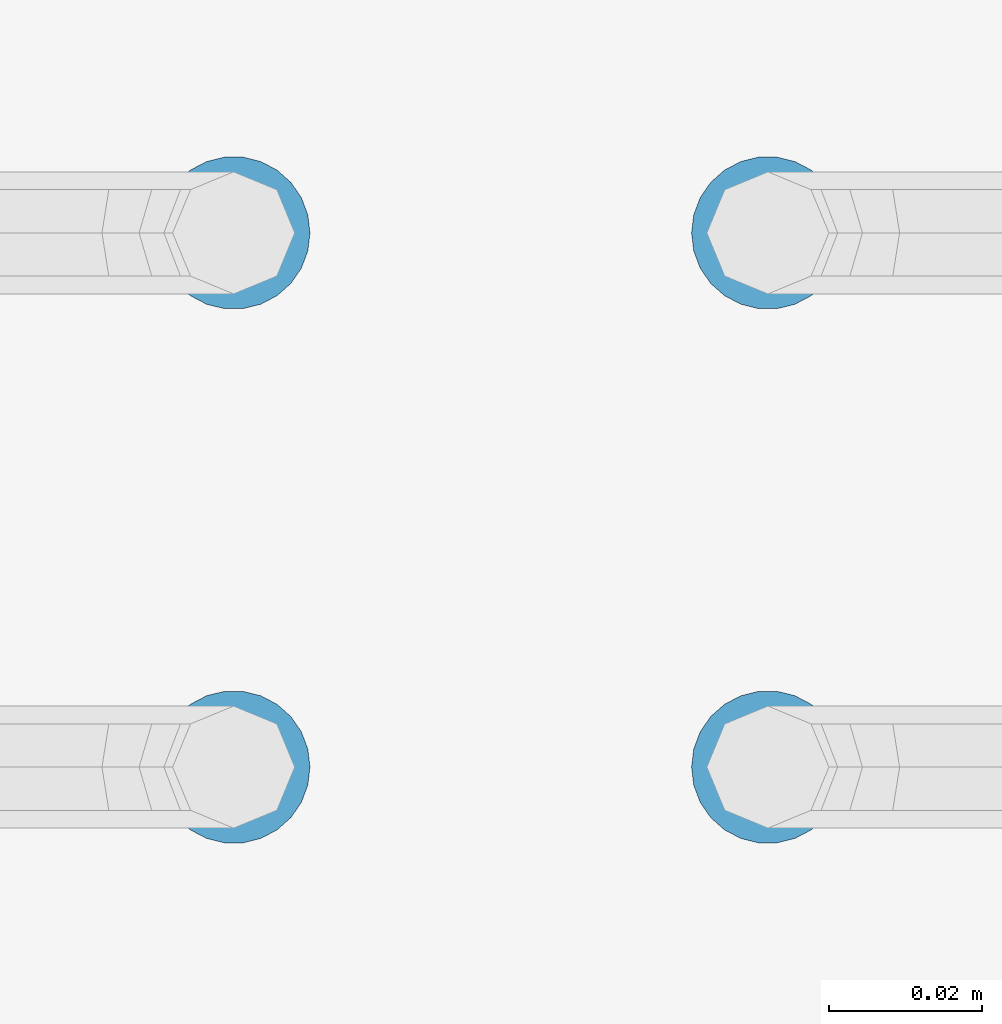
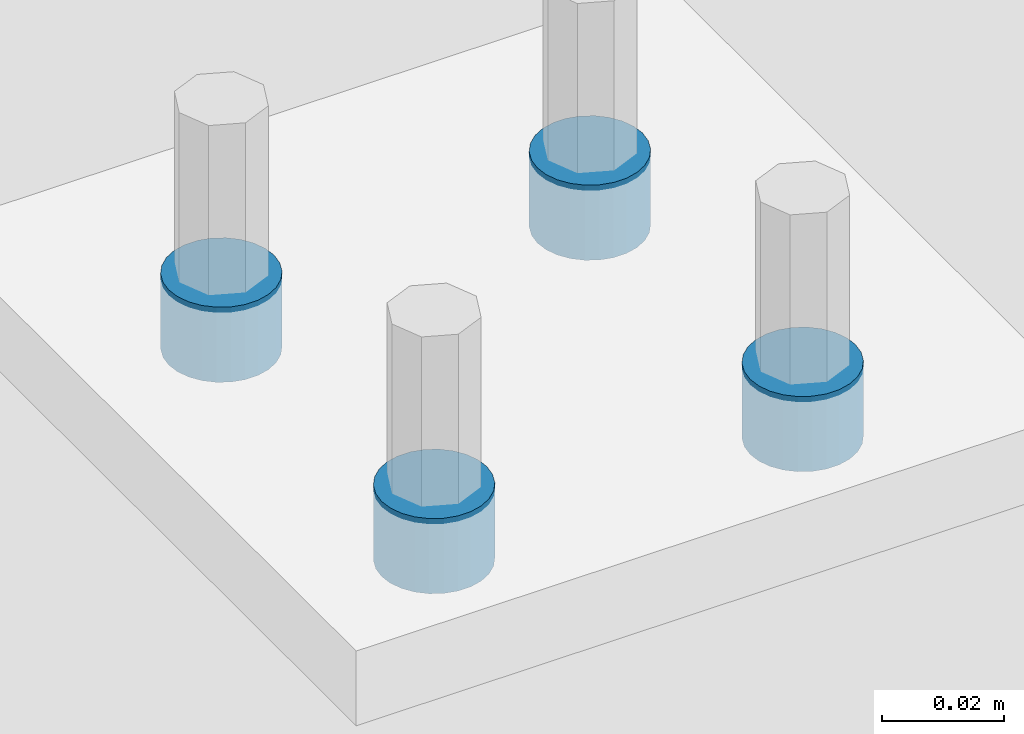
# One storey, part 13 of 22: 1 mechanical fastener.
"""IFC2X3 building model written with IfcOpenShell, lengths in millimetres."""

from ifc_helpers import new_model, si_unit, frame, origin_with_axes, origin_2d_with_axis, place, context, subcontext, project, spatial, circle, extrude, source, transform, mapped, material, type_object, element, save


model = new_model("IFC2X3")

# Units and contexts
model_context = context("Model", 3, precision=1e-05, world=origin_with_axes())
body_context = subcontext(model_context, "Body", "Model", "MODEL_VIEW")
ifc_project = project(units=[si_unit("LENGTHUNIT", "METRE", prefix="MILLI"), si_unit("AREAUNIT", "SQUARE_METRE"), si_unit("VOLUMEUNIT", "CUBIC_METRE"), si_unit("MASSUNIT", "GRAM", prefix="KILO"), si_unit("TIMEUNIT", "SECOND"), si_unit("PLANEANGLEUNIT", "RADIAN"), si_unit("SOLIDANGLEUNIT", "STERADIAN"), si_unit("THERMODYNAMICTEMPERATUREUNIT", "DEGREE_CELSIUS"), si_unit("LUMINOUSINTENSITYUNIT", "LUMEN")], contexts=[model_context])

# Site, building, storey
site_placement = place(None, origin_with_axes())
site = spatial("IfcSite", under=ifc_project, at=site_placement, Name="Undefined", CompositionType="ELEMENT")
building_placement = place(site_placement, origin_with_axes())
building = spatial("IfcBuilding", under=site, at=building_placement, Name="Undefined", CompositionType="ELEMENT")
storey_placement = place(building_placement, origin_with_axes())
storey = spatial("IfcBuildingStorey", under=building, at=storey_placement, Name="Undefined", CompositionType="ELEMENT", Elevation=0.0)

# Mechanical fastener
ifc_material = material(Name="Undefined")
mechanical_fastener_type = type_object("IfcMechanicalFastenerType", Name="Bolt assembly")
shared_shape = source(origin_with_axes(), body_context, "Body", "SweptSolid", [
    extrude(circle(Radius=10.0, at=origin_2d_with_axis()), frame((0.0, -15.0, 0.0), z_axis=(0.0, 1.0, 0.0), x_axis=(1.0, 0.0, 0.0)), (0.0, 0.0, 1.0), 15.1),
])
mechanical_fastener_placement = place(storey_placement, frame((49282.6203901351, 41534.3009584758, -235.0), z_axis=(0.0, 1.0, 0.0), x_axis=(-1.0, 0.0, 0.0)))
element("IfcMechanicalFastener", 1, at=mechanical_fastener_placement, inside=storey, type_object=mechanical_fastener_type, material=ifc_material, Name="Bolt assembly", NominalDiameter=16.0, NominalLength=15.0, context=body_context, shape_type="MappedRepresentation", body=[
    mapped(shared_shape, transform((31.5, 0.0, -35.0))),
    mapped(shared_shape, transform((31.5, 0.0, 35.0))),
    mapped(shared_shape, transform((101.5, 0.0, -35.0))),
    mapped(shared_shape, transform((101.5, 0.0, 35.0))),
])

save(model, "model.ifc")
